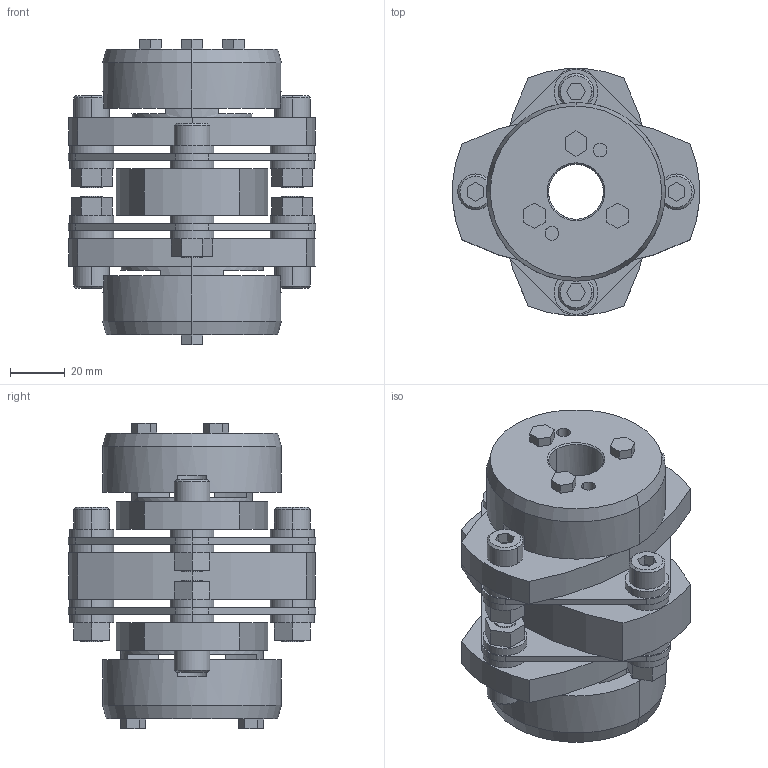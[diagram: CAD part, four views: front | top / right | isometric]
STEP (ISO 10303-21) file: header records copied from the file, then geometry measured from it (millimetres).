
FILE_DESCRIPTION((''),'2;1');
FILE_NAME('LCD-90T7-20×28.stp','2015-11-01T20:05:34',(''),(''),'AutoCAD STEP 2000i','AutoCAD 2000i',', , ');
FILE_SCHEMA(('CONFIG_CONTROL_DESIGN'));
Length unit declared in the file: millimetre
Products named in the file (8): LCD-90T7-20×30; 忣兜1; LC90T7-T020; LC90T7-T030; LC90T7-T025; LC90T7-T019-1; LC90T7-T019; LCD90-ITA
Assembly tree (7 placements, depth 2):
  LCD-90T7-20×30
    忣兜1
    LC90T7-T020
    LC90T7-T030
    LC90T7-T025
    LC90T7-T019-1
    LC90T7-T019
    LCD90-ITA
Bounding box: 90 x 89.94 x 111 mm (x, y, z)
Volume: 293060.8 mm3; surface area: 76331.1 mm2
Topology: 1 solids, 1 shells, 321 faces, 786 edges, 516 vertices
Faces by surface type: plane 173, cylinder 124, cone 24
Entity records: 9749 total; most frequent: DIRECTION 1740, CARTESIAN_POINT 1631, ORIENTED_EDGE 1572, EDGE_CURVE 786, AXIS2_PLACEMENT_3D 625, VERTEX_POINT 516, VECTOR 490, LINE 490
